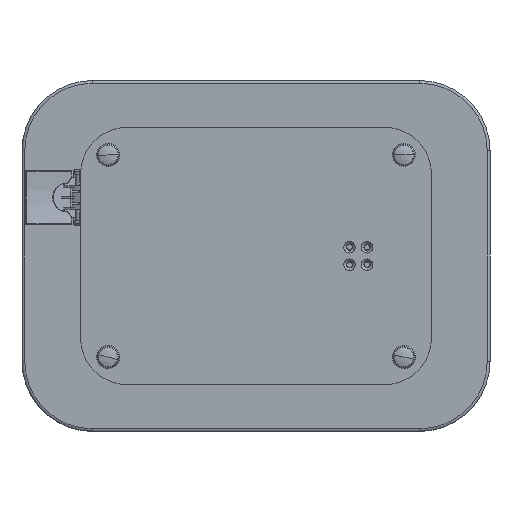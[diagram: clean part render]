
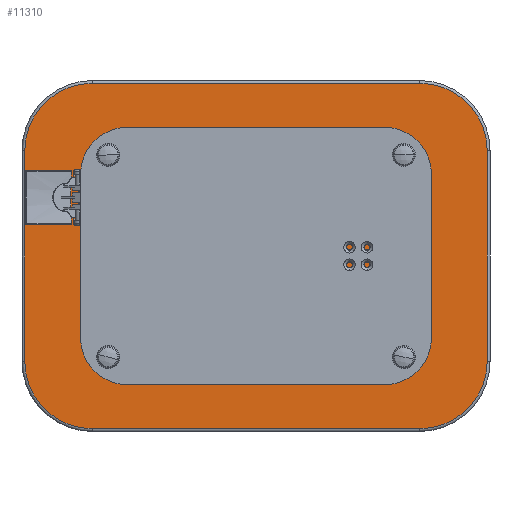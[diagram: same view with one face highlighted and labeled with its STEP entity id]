
A CAD part, front view. The second image highlights one B-rep face of the part: STEP entity #11310.
In plain terms, the highlighted planar face has unit normal (0, -1, 0).
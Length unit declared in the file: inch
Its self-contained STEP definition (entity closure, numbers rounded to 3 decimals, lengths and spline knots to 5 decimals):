
#22 = AXIS2_PLACEMENT_3D ( 'NONE', #3844, #9872, #11089 ) ;
#129 = CARTESIAN_POINT ( 'NONE',  ( 9.88189, 0., -4.5 ) ) ;
#174 = DIRECTION ( 'NONE',  ( 0., 0., 1. ) ) ;
#289 = LINE ( 'NONE', #3492, #5614 ) ;
#362 = CARTESIAN_POINT ( 'NONE',  ( 7., 0., 7.38189 ) ) ;
#384 = CARTESIAN_POINT ( 'NONE',  ( -7., 0., -7.38189 ) ) ;
#770 = FACE_OUTER_BOUND ( 'NONE', #12998, .T. ) ;
#1352 = CARTESIAN_POINT ( 'NONE',  ( -7., 0., -4.5 ) ) ;
#1407 = EDGE_CURVE ( 'NONE', #6989, #3637, #289, .T. ) ;
#1809 = CARTESIAN_POINT ( 'NONE',  ( 9.88189, 0., 4.5 ) ) ;
#2006 = ORIENTED_EDGE ( 'NONE', *, *, #12720, .F. ) ;
#2075 = AXIS2_PLACEMENT_3D ( 'NONE', #5773, #3976, #10009 ) ;
#2080 = VECTOR ( 'NONE', #4878, 39.37008 ) ;
#2346 = CARTESIAN_POINT ( 'NONE',  ( -7., 0., 7.38189 ) ) ;
#2392 = EDGE_CURVE ( 'NONE', #9631, #9034, #6420, .T. ) ;
#2757 = CARTESIAN_POINT ( 'NONE',  ( -9.88189, 0., -4.5 ) ) ;
#3124 = AXIS2_PLACEMENT_3D ( 'NONE', #1352, #5227, #9489 ) ;
#3492 = CARTESIAN_POINT ( 'NONE',  ( 7., 0., -7.38189 ) ) ;
#3568 = AXIS2_PLACEMENT_3D ( 'NONE', #8102, #12219, #9253 ) ;
#3637 = VERTEX_POINT ( 'NONE', #384 ) ;
#3844 = CARTESIAN_POINT ( 'NONE',  ( -7., 0., 4.5 ) ) ;
#3976 = DIRECTION ( 'NONE',  ( 0., -1., 0. ) ) ;
#4192 = CARTESIAN_POINT ( 'NONE',  ( 7., 0., -4.5 ) ) ;
#4636 = CIRCLE ( 'NONE', #11918, 2.88189 ) ;
#4878 = DIRECTION ( 'NONE',  ( 0., 0., -1. ) ) ;
#4940 = LINE ( 'NONE', #1809, #2080 ) ;
#4965 = ORIENTED_EDGE ( 'NONE', *, *, #2392, .F. ) ;
#5108 = VERTEX_POINT ( 'NONE', #7970 ) ;
#5227 = DIRECTION ( 'NONE',  ( 0., 1., 0. ) ) ;
#5354 = LINE ( 'NONE', #2346, #9161 ) ;
#5614 = VECTOR ( 'NONE', #9582, 39.37008 ) ;
#5632 = LINE ( 'NONE', #2757, #9370 ) ;
#5773 = CARTESIAN_POINT ( 'NONE',  ( 0., 0., 0. ) ) ;
#6111 = ORIENTED_EDGE ( 'NONE', *, *, #10998, .F. ) ;
#6420 = CIRCLE ( 'NONE', #22, 2.88189 ) ;
#6489 = DIRECTION ( 'NONE',  ( 1., 0., 0. ) ) ;
#6697 = EDGE_CURVE ( 'NONE', #10031, #7992, #12364, .T. ) ;
#6989 = VERTEX_POINT ( 'NONE', #7955 ) ;
#7850 = PLANE ( 'NONE',  #2075 ) ;
#7955 = CARTESIAN_POINT ( 'NONE',  ( 7., 0., -7.38189 ) ) ;
#7970 = CARTESIAN_POINT ( 'NONE',  ( -9.88189, 0., -4.5 ) ) ;
#7992 = VERTEX_POINT ( 'NONE', #8315 ) ;
#8102 = CARTESIAN_POINT ( 'NONE',  ( 7., 0., 4.5 ) ) ;
#8305 = ORIENTED_EDGE ( 'NONE', *, *, #12987, .F. ) ;
#8315 = CARTESIAN_POINT ( 'NONE',  ( 9.88189, 0., 4.5 ) ) ;
#8475 = VERTEX_POINT ( 'NONE', #129 ) ;
#8819 = CARTESIAN_POINT ( 'NONE',  ( -7., 0., 7.38189 ) ) ;
#8908 = EDGE_CURVE ( 'NONE', #3637, #5108, #10223, .T. ) ;
#8940 = ORIENTED_EDGE ( 'NONE', *, *, #8908, .F. ) ;
#9034 = VERTEX_POINT ( 'NONE', #8819 ) ;
#9161 = VECTOR ( 'NONE', #6489, 39.37008 ) ;
#9253 = DIRECTION ( 'NONE',  ( 0., 0., 1. ) ) ;
#9260 = EDGE_CURVE ( 'NONE', #7992, #8475, #4940, .T. ) ;
#9370 = VECTOR ( 'NONE', #10793, 39.37008 ) ;
#9394 = ORIENTED_EDGE ( 'NONE', *, *, #1407, .F. ) ;
#9489 = DIRECTION ( 'NONE',  ( 0., 0., 1. ) ) ;
#9582 = DIRECTION ( 'NONE',  ( -1., 0., 0. ) ) ;
#9631 = VERTEX_POINT ( 'NONE', #12656 ) ;
#9872 = DIRECTION ( 'NONE',  ( 0., 1., 0. ) ) ;
#10009 = DIRECTION ( 'NONE',  ( 0., 0., -1. ) ) ;
#10031 = VERTEX_POINT ( 'NONE', #362 ) ;
#10223 = CIRCLE ( 'NONE', #3124, 2.88189 ) ;
#10355 = DIRECTION ( 'NONE',  ( 0., 1., 0. ) ) ;
#10793 = DIRECTION ( 'NONE',  ( 0., 0., 1. ) ) ;
#10998 = EDGE_CURVE ( 'NONE', #8475, #6989, #4636, .T. ) ;
#11089 = DIRECTION ( 'NONE',  ( 0., 0., 1. ) ) ;
#11310 = ADVANCED_FACE ( 'NONE', ( #770 ), #7850, .T. ) ;
#11918 = AXIS2_PLACEMENT_3D ( 'NONE', #4192, #10355, #174 ) ;
#12004 = ORIENTED_EDGE ( 'NONE', *, *, #6697, .F. ) ;
#12124 = ORIENTED_EDGE ( 'NONE', *, *, #9260, .F. ) ;
#12219 = DIRECTION ( 'NONE',  ( 0., 1., 0. ) ) ;
#12364 = CIRCLE ( 'NONE', #3568, 2.88189 ) ;
#12656 = CARTESIAN_POINT ( 'NONE',  ( -9.88189, 0., 4.5 ) ) ;
#12720 = EDGE_CURVE ( 'NONE', #5108, #9631, #5632, .T. ) ;
#12987 = EDGE_CURVE ( 'NONE', #9034, #10031, #5354, .T. ) ;
#12998 = EDGE_LOOP ( 'NONE', ( #2006, #8940, #9394, #6111, #12124, #12004, #8305, #4965 ) ) ;
